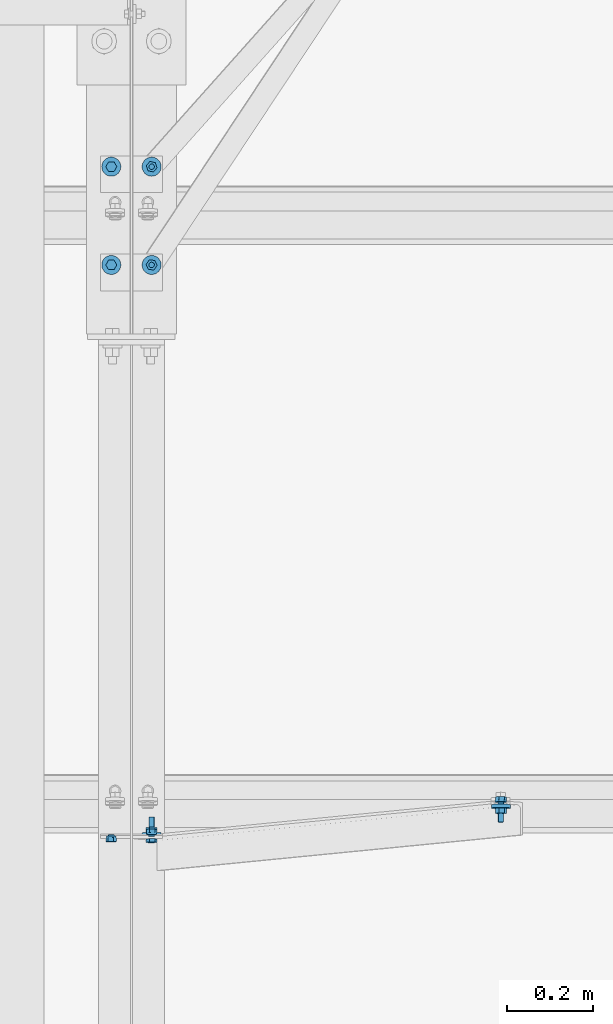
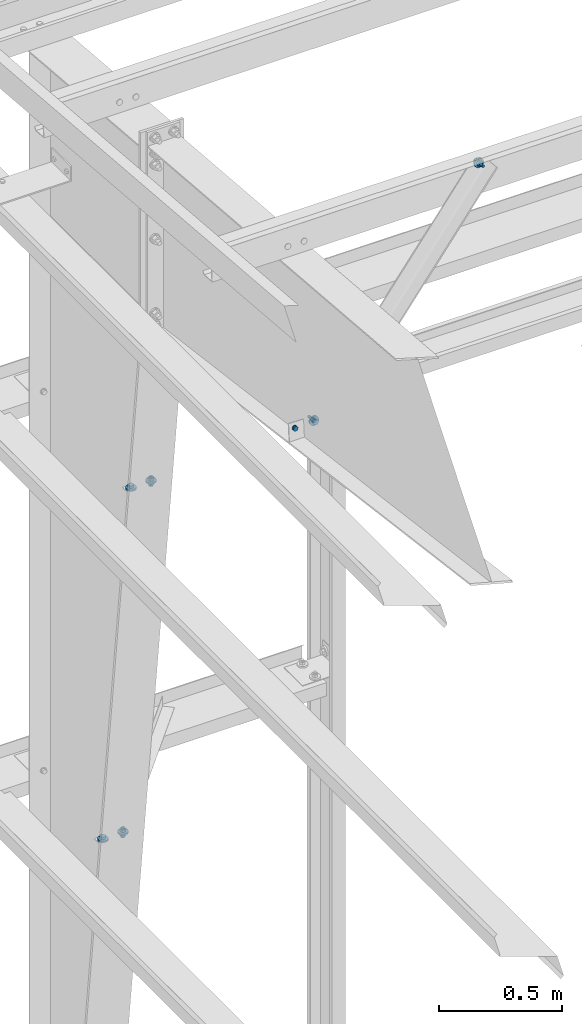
# One storey, part 150 of 185: 8 mechanical fasteners, 3 elements without a shape of their own.
"""IFC2X3 building model written with IfcOpenShell, lengths in millimetres."""

from ifc_helpers import new_model, si_unit, frame, origin_with_axes, origin_2d_with_axis, place, context, subcontext, project, spatial, polyline, circle, outline, extrude, source, transform, mapped, material, type_object, element, aggregate, save


model = new_model("IFC2X3")

# Units and contexts
model_context = context("Model", 3, precision=1e-05, world=origin_with_axes())
body_context = subcontext(model_context, "Body", "Model", "MODEL_VIEW")
ifc_project = project(units=[si_unit("LENGTHUNIT", "METRE", prefix="MILLI"), si_unit("AREAUNIT", "SQUARE_METRE"), si_unit("VOLUMEUNIT", "CUBIC_METRE"), si_unit("MASSUNIT", "GRAM", prefix="KILO"), si_unit("TIMEUNIT", "SECOND"), si_unit("PLANEANGLEUNIT", "RADIAN"), si_unit("SOLIDANGLEUNIT", "STERADIAN"), si_unit("THERMODYNAMICTEMPERATUREUNIT", "DEGREE_CELSIUS"), si_unit("LUMINOUSINTENSITYUNIT", "LUMEN")], contexts=[model_context])

# Site, building, storey
site_placement = place(None, origin_with_axes())
site = spatial("IfcSite", under=ifc_project, at=site_placement, Name="Undefined", CompositionType="ELEMENT")
building_placement = place(site_placement, origin_with_axes())
building = spatial("IfcBuilding", under=site, at=building_placement, Name="Undefined", CompositionType="ELEMENT")
storey_placement = place(building_placement, origin_with_axes())
storey = spatial("IfcBuildingStorey", under=building, at=storey_placement, Name="Undefined", CompositionType="ELEMENT", Elevation=0.0)

# Assembly, mechanical fasteners
assembly_1_placement = place(storey_placement, origin_with_axes())
assembly_1 = element("IfcElementAssembly", 1, at=assembly_1_placement, inside=storey, Name="Steel Assembly", AssemblyPlace="NOTDEFINED", PredefinedType="RIGID_FRAME")
ifc_material_1 = material(Name="7990")
discrete_accessory_type = type_object("IfcDiscreteAccessoryType", Name="Bolt assembly")
shared_shape_1 = source(origin_with_axes(), body_context, "Body", "SweptSolid", [
    extrude(circle(Radius=7.14374971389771, at=origin_2d_with_axis()), frame((0.0, -3.41600000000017, 0.0), z_axis=(0.0, 1.0, 0.0), x_axis=(1.0, 0.0, 0.0)), (0.0, 0.0, 1.0), 3.5),
    extrude(circle(Radius=11.4299998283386, at=origin_2d_with_axis()), frame((0.0, 0.0, 0.0), z_axis=(0.0, 1.0, 0.0), x_axis=(1.0, 0.0, 0.0)), (0.0, 0.0, 1.0), 4.2),
    extrude(outline(polyline([(12.171698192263, 0.0), (6.08584909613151, 10.5409998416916), (-6.08584909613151, 10.5409998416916), (-12.171698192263, 0.0), (-6.08584909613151, -10.5409998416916), (6.08584909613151, -10.5409998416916), (12.171698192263, 0.0)])), frame((0.0, 4.1909999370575, 0.0), z_axis=(0.0, 1.0, 0.0), x_axis=(1.0, 0.0, 0.0)), (0.0, 0.0, 1.0), 8.4),
])
mechanical_fastener_1_placement = place(assembly_1_placement, frame((359.568749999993, 29738.7325780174, 5272.64581043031), z_axis=(-0.921635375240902, 0.0322263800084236, 0.386716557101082), x_axis=(-0.388056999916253, -0.0765376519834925, -0.918451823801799)))
mechanical_fastener_1 = element("IfcMechanicalFastener", 2, at=mechanical_fastener_1_placement, type_object=discrete_accessory_type, material=ifc_material_1, Name="Bolt assembly", NominalDiameter=12.6999998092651, NominalLength=38.0999984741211, context=body_context, shape_type="MappedRepresentation", body=[
    mapped(shared_shape_1, transform((0.0, 0.0, 0.0))),
])
shared_shape_2 = source(origin_with_axes(), body_context, "Body", "SweptSolid", [
    extrude(circle(Radius=7.14374971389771, at=origin_2d_with_axis()), frame((0.0, 0.0, 0.0), z_axis=(0.0, 1.0, 0.0), x_axis=(1.0, 0.0, 0.0)), (0.0, 0.0, 1.0), 3.5),
    extrude(circle(Radius=11.4299998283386, at=origin_2d_with_axis()), frame((0.0, 3.41600000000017, 0.0), z_axis=(0.0, 1.0, 0.0), x_axis=(1.0, 0.0, 0.0)), (0.0, 0.0, 1.0), 4.2),
    extrude(outline(polyline([(12.171698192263, 0.0), (6.08584909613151, 10.5409998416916), (-6.08584909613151, 10.5409998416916), (-12.171698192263, 0.0), (-6.08584909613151, -10.5409998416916), (6.08584909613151, -10.5409998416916), (12.171698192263, 0.0)])), frame((0.0, 7.60699993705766, 0.0), z_axis=(0.0, 1.0, 0.0), x_axis=(1.0, 0.0, 0.0)), (0.0, 0.0, 1.0), 8.4),
])
mechanical_fastener_2_placement = place(assembly_1_placement, frame((453.231250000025, 29738.732578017, 5272.64581043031), z_axis=(0.921635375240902, 0.0322263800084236, 0.386716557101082), x_axis=(0.388056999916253, -0.0765376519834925, -0.918451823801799)))
mechanical_fastener_2 = element("IfcMechanicalFastener", 3, at=mechanical_fastener_2_placement, type_object=discrete_accessory_type, material=ifc_material_1, Name="Bolt assembly", NominalDiameter=12.6999998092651, NominalLength=38.0999984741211, context=body_context, shape_type="MappedRepresentation", body=[
    mapped(shared_shape_2, transform((0.0, 0.0, 0.0))),
])
aggregate(assembly_1, [mechanical_fastener_2, mechanical_fastener_1])

assembly_2_placement = place(storey_placement, origin_with_axes())
assembly_2 = element("IfcElementAssembly", 4, at=assembly_2_placement, inside=storey, Name="Steel Assembly", AssemblyPlace="NOTDEFINED", PredefinedType="RIGID_FRAME")
ifc_material_2 = material(Name="Undefined")
shared_shape_3 = source(origin_with_axes(), body_context, "Body", "SweptSolid", [
    extrude(circle(Radius=7.14374971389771, at=origin_2d_with_axis()), frame((0.0, -0.1, 0.0), z_axis=(0.0, 1.0, 0.0), x_axis=(1.0, 0.0, 0.0)), (0.0, 0.0, 1.0), 1.7),
    extrude(circle(Radius=7.14374971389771, at=origin_2d_with_axis()), frame((0.0, -4.90379999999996, 0.0), z_axis=(0.0, 1.0, 0.0), x_axis=(1.0, 0.0, 0.0)), (0.0, 0.0, 1.0), 3.4),
    extrude(outline(polyline([(10.9985221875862, 0.0), (5.4992610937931, 9.52499961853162), (-5.4992610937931, 9.52499961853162), (-10.9985221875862, 0.0), (-5.4992610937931, -9.52499961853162), (5.4992610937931, -9.52499961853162), (10.9985221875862, 0.0)])), frame((0.0, -18.4975496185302, 0.0), z_axis=(0.0, 1.0, 0.0), x_axis=(1.0, 0.0, 0.0)), (0.0, 0.0, 1.0), 9.5),
    extrude(circle(Radius=6.34999990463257, at=origin_2d_with_axis()), frame((0.0, -8.97254999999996, 0.0), z_axis=(0.0, 1.0, 0.0), x_axis=(1.0, 0.0, 0.0)), (0.0, 0.0, 1.0), 38.1),
    extrude(circle(Radius=13.4937496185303, at=origin_2d_with_axis()), frame((0.0, -8.97254999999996, 0.0), z_axis=(0.0, 1.0, 0.0), x_axis=(1.0, 0.0, 0.0)), (0.0, 0.0, 1.0), 4.0),
    extrude(circle(Radius=22.2250003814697, at=origin_2d_with_axis()), frame((0.0, 1.5900000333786, 0.0), z_axis=(0.0, 1.0, 0.0), x_axis=(1.0, 0.0, 0.0)), (0.0, 0.0, 1.0), 7.9),
    extrude(outline(polyline([(12.8316099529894, 0.0), (6.4158049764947, 11.1125001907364), (-6.4158049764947, 11.1125001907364), (-12.8316099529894, 0.0), (-6.4158049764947, -11.1125001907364), (6.4158049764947, -11.1125001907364), (12.8316099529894, 0.0)])), frame((0.0, 9.5275000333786, 0.0), z_axis=(0.0, 1.0, 0.0), x_axis=(1.0, 0.0, 0.0)), (0.0, 0.0, 1.0), 12.3),
])
mechanical_fastener_3_placement = place(assembly_2_placement, frame((453.23125, 31293.5575559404, 2287.5875), z_axis=(0.746385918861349, -0.665513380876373, 0.0), x_axis=(0.665513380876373, 0.746385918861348, 0.0)))
mechanical_fastener_3 = element("IfcMechanicalFastener", 5, at=mechanical_fastener_3_placement, type_object=discrete_accessory_type, material=ifc_material_2, Name="Bolt assembly", NominalDiameter=12.6999998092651, NominalLength=38.0999984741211, context=body_context, shape_type="MappedRepresentation", body=[
    mapped(shared_shape_3, transform((0.0, 0.0, 0.0))),
])
mechanical_fastener_4_placement = place(assembly_2_placement, frame((453.23125, 31065.4481495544, 4167.1875), z_axis=(0.83363565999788, -0.552314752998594, 0.0), x_axis=(0.552314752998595, 0.83363565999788, 0.0)))
mechanical_fastener_4 = element("IfcMechanicalFastener", 6, at=mechanical_fastener_4_placement, type_object=discrete_accessory_type, material=ifc_material_2, Name="Bolt assembly", NominalDiameter=12.6999998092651, NominalLength=38.0999984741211, context=body_context, shape_type="MappedRepresentation", body=[
    mapped(shared_shape_3, transform((0.0, 0.0, 0.0))),
])
shared_shape_4 = source(origin_with_axes(), body_context, "Body", "SweptSolid", [
    extrude(circle(Radius=7.14374971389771, at=origin_2d_with_axis()), frame((0.0, -3.41629999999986, 0.0), z_axis=(0.0, 1.0, 0.0), x_axis=(1.0, 0.0, 0.0)), (0.0, 0.0, 1.0), 3.5),
    extrude(circle(Radius=22.2250003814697, at=origin_2d_with_axis()), frame((0.0, 0.0, 0.0), z_axis=(0.0, 1.0, 0.0), x_axis=(1.0, 0.0, 0.0)), (0.0, 0.0, 1.0), 7.9),
    extrude(outline(polyline([(12.8316099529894, 0.0), (6.4158049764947, 11.1125001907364), (-6.4158049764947, 11.1125001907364), (-12.8316099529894, 0.0), (-6.4158049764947, -11.1125001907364), (6.4158049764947, -11.1125001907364), (12.8316099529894, 0.0)])), frame((0.0, 7.93750000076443, 0.0), z_axis=(0.0, 1.0, 0.0), x_axis=(1.0, 0.0, 0.0)), (0.0, 0.0, 1.0), 12.3),
])
mechanical_fastener_5_placement = place(assembly_2_placement, frame((359.56875, 31293.5575559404, 2286.0), z_axis=(0.0, -1.0, 0.0), x_axis=(1.0, 0.0, 0.0)))
mechanical_fastener_5 = element("IfcMechanicalFastener", 7, at=mechanical_fastener_5_placement, type_object=discrete_accessory_type, material=ifc_material_2, Name="Bolt assembly", NominalDiameter=12.6999998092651, NominalLength=50.7999992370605, context=body_context, shape_type="MappedRepresentation", body=[
    mapped(shared_shape_4, transform((0.0, 0.0, 0.0))),
])
mechanical_fastener_6_placement = place(assembly_2_placement, frame((359.56875, 31065.4481495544, 4165.6), z_axis=(0.0, -1.0, 0.0), x_axis=(1.0, 0.0, 0.0)))
mechanical_fastener_6 = element("IfcMechanicalFastener", 8, at=mechanical_fastener_6_placement, type_object=discrete_accessory_type, material=ifc_material_2, Name="Bolt assembly", NominalDiameter=12.6999998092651, NominalLength=50.7999992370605, context=body_context, shape_type="MappedRepresentation", body=[
    mapped(shared_shape_4, transform((0.0, 0.0, 0.0))),
])
aggregate(assembly_2, [mechanical_fastener_3, mechanical_fastener_5, mechanical_fastener_4, mechanical_fastener_6])

assembly_3_placement = place(storey_placement, origin_with_axes())
assembly_3 = element("IfcElementAssembly", 9, at=assembly_3_placement, inside=storey, Name="Steel Assembly", AssemblyPlace="NOTDEFINED", PredefinedType="RIGID_FRAME")
shared_shape_5 = source(origin_with_axes(), body_context, "Body", "SweptSolid", [
    extrude(circle(Radius=7.14374971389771, at=origin_2d_with_axis()), frame((0.0, 0.0, 0.0), z_axis=(0.0, 1.0, 0.0), x_axis=(1.0, 0.0, 0.0)), (0.0, 0.0, 1.0), 6.5),
    extrude(outline(polyline([(12.8316099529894, 0.0), (6.4158049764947, 11.1125001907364), (-6.4158049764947, 11.1125001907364), (-12.8316099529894, 0.0), (-6.4158049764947, -11.1125001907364), (6.4158049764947, -11.1125001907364), (12.8316099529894, 0.0)])), frame((0.0, -11.9062498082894, 0.0), z_axis=(0.0, 1.0, 0.0), x_axis=(1.0, 0.0, 0.0)), (0.0, 0.0, 1.0), 7.9),
    extrude(circle(Radius=6.34999990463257, at=origin_2d_with_axis()), frame((0.0, -3.96874999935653, 0.0), z_axis=(0.0, 1.0, 0.0), x_axis=(1.0, 0.0, 0.0)), (0.0, 0.0, 1.0), 50.8),
    extrude(circle(Radius=13.4937496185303, at=origin_2d_with_axis()), frame((0.0, -3.96874999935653, 0.0), z_axis=(0.0, 1.0, 0.0), x_axis=(1.0, 0.0, 0.0)), (0.0, 0.0, 1.0), 4.0),
    extrude(circle(Radius=22.2250003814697, at=origin_2d_with_axis()), frame((0.0, 6.35000000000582, 0.0), z_axis=(0.0, 1.0, 0.0), x_axis=(1.0, 0.0, 0.0)), (0.0, 0.0, 1.0), 7.9),
    extrude(outline(polyline([(12.8316099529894, 0.0), (6.4158049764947, 11.1125001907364), (-6.4158049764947, 11.1125001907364), (-12.8316099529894, 0.0), (-6.4158049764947, -11.1125001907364), (6.4158049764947, -11.1125001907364), (12.8316099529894, 0.0)])), frame((0.0, 14.2875000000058, 0.0), z_axis=(0.0, 1.0, 0.0), x_axis=(1.0, 0.0, 0.0)), (0.0, 0.0, 1.0), 12.3),
])
mechanical_fastener_7_placement = place(assembly_3_placement, frame((1264.15499999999, 29818.276058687, 6227.16757841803), z_axis=(-0.76695695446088, 0.0532901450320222, 0.639481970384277), x_axis=(-0.641698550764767, -0.0636923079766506, -0.764307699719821)))
mechanical_fastener_7 = element("IfcMechanicalFastener", 10, at=mechanical_fastener_7_placement, type_object=discrete_accessory_type, material=ifc_material_2, Name="Bolt assembly", NominalDiameter=12.6999998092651, NominalLength=50.7999992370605, context=body_context, shape_type="MappedRepresentation", body=[
    mapped(shared_shape_5, transform((0.0, 0.0, 0.0))),
])
shared_shape_6 = source(origin_with_axes(), body_context, "Body", "SweptSolid", [
    extrude(circle(Radius=7.14374971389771, at=origin_2d_with_axis()), frame((0.0, -6.34999953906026, 0.0), z_axis=(0.0, 1.0, 0.0), x_axis=(1.0, 0.0, 0.0)), (0.0, 0.0, 1.0), 6.5),
    extrude(outline(polyline([(12.8316099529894, 0.0), (6.4158049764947, 11.1125001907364), (-6.4158049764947, 11.1125001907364), (-12.8316099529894, 0.0), (-6.4158049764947, -11.1125001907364), (6.4158049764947, -11.1125001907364), (12.8316099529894, 0.0)])), frame((0.0, -14.2874996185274, 0.0), z_axis=(0.0, 1.0, 0.0), x_axis=(1.0, 0.0, 0.0)), (0.0, 0.0, 1.0), 7.9),
    extrude(circle(Radius=6.34999990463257, at=origin_2d_with_axis()), frame((0.0, -6.34999953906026, 0.0), z_axis=(0.0, 1.0, 0.0), x_axis=(1.0, 0.0, 0.0)), (0.0, 0.0, 1.0), 50.8),
    extrude(circle(Radius=22.2250003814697, at=origin_2d_with_axis()), frame((0.0, 0.0, 0.0), z_axis=(0.0, 1.0, 0.0), x_axis=(1.0, 0.0, 0.0)), (0.0, 0.0, 1.0), 7.9),
    extrude(outline(polyline([(12.8316099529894, 0.0), (6.4158049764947, 11.1125001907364), (-6.4158049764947, 11.1125001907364), (-12.8316099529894, 0.0), (-6.4158049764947, -11.1125001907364), (6.4158049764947, -11.1125001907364), (12.8316099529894, 0.0)])), frame((0.0, 7.93750000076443, 0.0), z_axis=(0.0, 1.0, 0.0), x_axis=(1.0, 0.0, 0.0)), (0.0, 0.0, 1.0), 12.3),
])
mechanical_fastener_8_placement = place(assembly_3_placement, frame((453.231250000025, 29738.732578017, 5272.64581043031), z_axis=(-0.76695695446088, 0.0532901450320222, 0.639481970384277), x_axis=(0.641698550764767, 0.0636923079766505, 0.764307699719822)))
mechanical_fastener_8 = element("IfcMechanicalFastener", 11, at=mechanical_fastener_8_placement, type_object=discrete_accessory_type, material=ifc_material_2, Name="Bolt assembly", NominalDiameter=12.6999998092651, NominalLength=50.7999992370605, context=body_context, shape_type="MappedRepresentation", body=[
    mapped(shared_shape_6, transform((0.0, 0.0, 0.0))),
])
aggregate(assembly_3, [mechanical_fastener_7, mechanical_fastener_8])

save(model, "model.ifc")
